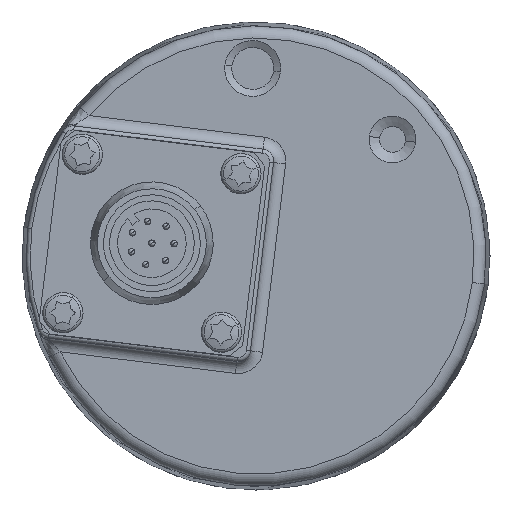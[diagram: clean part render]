
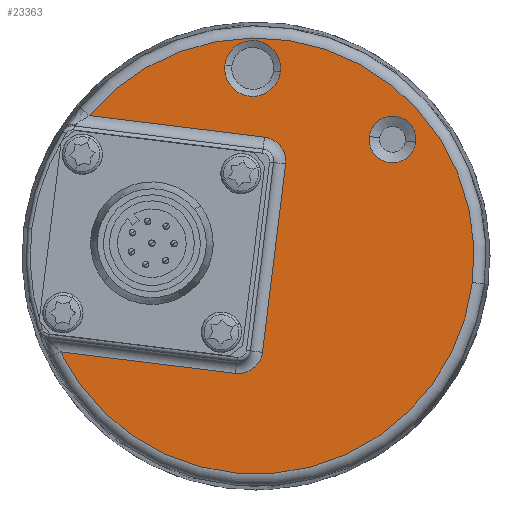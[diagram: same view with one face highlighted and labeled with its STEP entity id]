
A CAD part, left-side view. The second image highlights one B-rep face of the part: STEP entity #23363.
In plain terms, the highlighted planar face has unit normal (-1, 0, 0).
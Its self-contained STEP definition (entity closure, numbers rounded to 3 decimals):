
#138 = CARTESIAN_POINT ( 'NONE',  ( -30.5, -26.821, -3.293 ) ) ;
#144 = VERTEX_POINT ( 'NONE', #10012 ) ;
#380 = EDGE_CURVE ( 'NONE', #5958, #15666, #26605, .T. ) ;
#419 = EDGE_CURVE ( 'NONE', #15666, #5958, #30443, .T. ) ;
#498 = ORIENTED_EDGE ( 'NONE', *, *, #9326, .T. ) ;
#892 = DIRECTION ( 'NONE',  ( 0., -0.993, -0.122 ) ) ;
#1706 = EDGE_LOOP ( 'NONE', ( #12325, #498 ) ) ;
#1726 = EDGE_CURVE ( 'NONE', #15341, #30430, #3676, .T. ) ;
#1927 = DIRECTION ( 'NONE',  ( 0., -0.993, -0.122 ) ) ;
#2142 = ORIENTED_EDGE ( 'NONE', *, *, #6508, .T. ) ;
#2286 = CARTESIAN_POINT ( 'NONE',  ( -30.5, 0., 0. ) ) ;
#3445 = DIRECTION ( 'NONE',  ( -1., 0., 0. ) ) ;
#3651 = CIRCLE ( 'NONE', #14086, 3. ) ;
#3676 = CIRCLE ( 'NONE', #32121, 3. ) ;
#3736 = FACE_BOUND ( 'NONE', #4192, .T. ) ;
#4141 = CARTESIAN_POINT ( 'NONE',  ( -30.5, 24.27, -11.881 ) ) ;
#4177 = CIRCLE ( 'NONE', #23997, 27.022 ) ;
#4192 = EDGE_LOOP ( 'NONE', ( #18384, #20387 ) ) ;
#4297 = DIRECTION ( 'NONE',  ( 1., 0., 0. ) ) ;
#4373 = VERTEX_POINT ( 'NONE', #138 ) ;
#5119 = DIRECTION ( 'NONE',  ( 0., -0.993, -0.122 ) ) ;
#5958 = VERTEX_POINT ( 'NONE', #11088 ) ;
#6036 = CARTESIAN_POINT ( 'NONE',  ( -30.5, 2.176, -11.571 ) ) ;
#6246 = VECTOR ( 'NONE', #7797, 1000. ) ;
#6384 = DIRECTION ( 'NONE',  ( 1., 0., 0. ) ) ;
#6508 = EDGE_CURVE ( 'NONE', #15341, #20369, #28434, .T. ) ;
#7225 = CARTESIAN_POINT ( 'NONE',  ( -30.5, 0., 0. ) ) ;
#7241 = CIRCLE ( 'NONE', #7959, 3.466 ) ;
#7565 = CARTESIAN_POINT ( 'NONE',  ( -30.5, 26.845, -11.565 ) ) ;
#7635 = EDGE_CURVE ( 'NONE', #4373, #14875, #4177, .T. ) ;
#7797 = DIRECTION ( 'NONE',  ( 0., 0.993, 0.122 ) ) ;
#7959 = AXIS2_PLACEMENT_3D ( 'NONE', #21049, #4297, #23828 ) ;
#8122 = CARTESIAN_POINT ( 'NONE',  ( -30.5, -14.042, 14.804 ) ) ;
#8852 = DIRECTION ( 'NONE',  ( 0., -0.993, -0.122 ) ) ;
#9326 = EDGE_CURVE ( 'NONE', #35046, #144, #12199, .T. ) ;
#9531 = VERTEX_POINT ( 'NONE', #29881 ) ;
#9979 = DIRECTION ( 'NONE',  ( 0., -0.993, -0.122 ) ) ;
#10012 = CARTESIAN_POINT ( 'NONE',  ( -30.5, 3.846, 23.669 ) ) ;
#10912 = EDGE_CURVE ( 'NONE', #14875, #33703, #22759, .T. ) ;
#11088 = CARTESIAN_POINT ( 'NONE',  ( -30.5, -19.796, 14.097 ) ) ;
#11448 = ORIENTED_EDGE ( 'NONE', *, *, #35017, .T. ) ;
#11729 = DIRECTION ( 'NONE',  ( 1., 0., 0. ) ) ;
#12199 = CIRCLE ( 'NONE', #28690, 3.466 ) ;
#12325 = ORIENTED_EDGE ( 'NONE', *, *, #25131, .T. ) ;
#12531 = DIRECTION ( 'NONE',  ( 1., 0., 0. ) ) ;
#14086 = AXIS2_PLACEMENT_3D ( 'NONE', #35186, #18728, #1927 ) ;
#14237 = AXIS2_PLACEMENT_3D ( 'NONE', #28385, #11729, #31119 ) ;
#14875 = VERTEX_POINT ( 'NONE', #33265 ) ;
#15330 = VECTOR ( 'NONE', #892, 1000. ) ;
#15341 = VERTEX_POINT ( 'NONE', #31532 ) ;
#15666 = VERTEX_POINT ( 'NONE', #8122 ) ;
#15934 = AXIS2_PLACEMENT_3D ( 'NONE', #7225, #26673, #9979 ) ;
#17578 = CARTESIAN_POINT ( 'NONE',  ( -30.5, -2.542, 14.549 ) ) ;
#18384 = ORIENTED_EDGE ( 'NONE', *, *, #419, .T. ) ;
#18728 = DIRECTION ( 'NONE',  ( -1., 0., 0. ) ) ;
#19016 = DIRECTION ( 'NONE',  ( 0., 0.122, -0.993 ) ) ;
#19019 = CARTESIAN_POINT ( 'NONE',  ( -30.5, -0.801, -11.937 ) ) ;
#19822 = CARTESIAN_POINT ( 'NONE',  ( -30.5, -1.053, 14.731 ) ) ;
#20216 = CARTESIAN_POINT ( 'NONE',  ( -30.5, 0., 0. ) ) ;
#20369 = VERTEX_POINT ( 'NONE', #4141 ) ;
#20387 = ORIENTED_EDGE ( 'NONE', *, *, #380, .T. ) ;
#20986 = PLANE ( 'NONE',  #15934 ) ;
#21049 = CARTESIAN_POINT ( 'NONE',  ( -30.5, 0.406, 23.246 ) ) ;
#21296 = ORIENTED_EDGE ( 'NONE', *, *, #30883, .F. ) ;
#21867 = DIRECTION ( 'NONE',  ( -1., 0., 0. ) ) ;
#21872 = EDGE_LOOP ( 'NONE', ( #2142, #11448, #25296, #28490, #21296, #23252, #24725 ) ) ;
#22759 = LINE ( 'NONE', #17578, #15330 ) ;
#23002 = DIRECTION ( 'NONE',  ( 0., -0.993, -0.122 ) ) ;
#23074 = CARTESIAN_POINT ( 'NONE',  ( -30.5, -16.919, 14.45 ) ) ;
#23252 = ORIENTED_EDGE ( 'NONE', *, *, #29073, .T. ) ;
#23363 = ADVANCED_FACE ( 'NONE', ( #3736, #32414, #25150 ), #20986, .F. ) ;
#23573 = AXIS2_PLACEMENT_3D ( 'NONE', #23074, #6384, #25878 ) ;
#23828 = DIRECTION ( 'NONE',  ( 0., -0.993, -0.122 ) ) ;
#23997 = AXIS2_PLACEMENT_3D ( 'NONE', #2286, #21867, #5119 ) ;
#24725 = ORIENTED_EDGE ( 'NONE', *, *, #1726, .F. ) ;
#25131 = EDGE_CURVE ( 'NONE', #144, #35046, #7241, .T. ) ;
#25150 = FACE_OUTER_BOUND ( 'NONE', #21872, .T. ) ;
#25296 = ORIENTED_EDGE ( 'NONE', *, *, #7635, .T. ) ;
#25533 = DIRECTION ( 'NONE',  ( -1., 0., 0. ) ) ;
#25878 = DIRECTION ( 'NONE',  ( 0., -0.993, -0.122 ) ) ;
#26025 = CARTESIAN_POINT ( 'NONE',  ( -30.5, -3.034, 22.824 ) ) ;
#26605 = CIRCLE ( 'NONE', #14237, 2.899 ) ;
#26673 = DIRECTION ( 'NONE',  ( 1., 0., 0. ) ) ;
#27359 = VECTOR ( 'NONE', #19016, 1000. ) ;
#28385 = CARTESIAN_POINT ( 'NONE',  ( -30.5, -16.919, 14.45 ) ) ;
#28434 = LINE ( 'NONE', #7565, #6246 ) ;
#28490 = ORIENTED_EDGE ( 'NONE', *, *, #10912, .T. ) ;
#28690 = AXIS2_PLACEMENT_3D ( 'NONE', #29187, #12531, #31914 ) ;
#29073 = EDGE_CURVE ( 'NONE', #9531, #30430, #34600, .T. ) ;
#29187 = CARTESIAN_POINT ( 'NONE',  ( -30.5, 0.406, 23.246 ) ) ;
#29881 = CARTESIAN_POINT ( 'NONE',  ( -30.5, -3.665, 11.388 ) ) ;
#29976 = CARTESIAN_POINT ( 'NONE',  ( -30.5, -0.618, -13.425 ) ) ;
#30356 = CIRCLE ( 'NONE', #31432, 27.022 ) ;
#30430 = VERTEX_POINT ( 'NONE', #19019 ) ;
#30443 = CIRCLE ( 'NONE', #23573, 2.899 ) ;
#30883 = EDGE_CURVE ( 'NONE', #9531, #33703, #3651, .T. ) ;
#31119 = DIRECTION ( 'NONE',  ( 0., -0.993, -0.122 ) ) ;
#31432 = AXIS2_PLACEMENT_3D ( 'NONE', #20216, #3445, #23002 ) ;
#31532 = CARTESIAN_POINT ( 'NONE',  ( -30.5, 2.542, -14.549 ) ) ;
#31914 = DIRECTION ( 'NONE',  ( 0., -0.993, -0.122 ) ) ;
#32121 = AXIS2_PLACEMENT_3D ( 'NONE', #6036, #25533, #8852 ) ;
#32414 = FACE_BOUND ( 'NONE', #1706, .T. ) ;
#33265 = CARTESIAN_POINT ( 'NONE',  ( -30.5, 20.675, 17.399 ) ) ;
#33703 = VERTEX_POINT ( 'NONE', #19822 ) ;
#34600 = LINE ( 'NONE', #29976, #27359 ) ;
#35017 = EDGE_CURVE ( 'NONE', #20369, #4373, #30356, .T. ) ;
#35046 = VERTEX_POINT ( 'NONE', #26025 ) ;
#35186 = CARTESIAN_POINT ( 'NONE',  ( -30.5, -0.688, 11.754 ) ) ;
